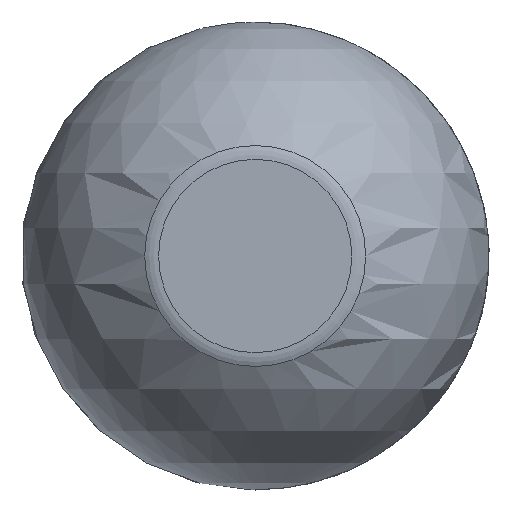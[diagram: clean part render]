
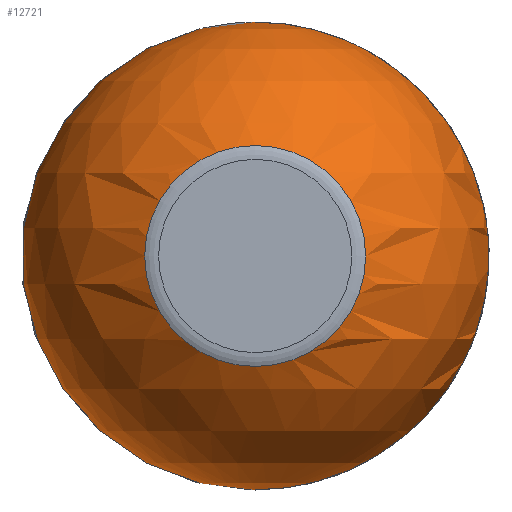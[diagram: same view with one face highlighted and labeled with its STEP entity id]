
A CAD part, left-side view. The second image highlights one B-rep face of the part: STEP entity #12721.
In plain terms, the highlighted spherical face has radius 12.179 mm.
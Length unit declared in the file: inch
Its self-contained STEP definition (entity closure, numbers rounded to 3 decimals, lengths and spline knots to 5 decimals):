
#2992=SPHERICAL_SURFACE('',#13518,0.4795);
#3435=FACE_BOUND('',#4279,.T.);
#3436=FACE_BOUND('',#4280,.T.);
#4279=EDGE_LOOP('',(#8761));
#4280=EDGE_LOOP('',(#8762));
#5109=CIRCLE('',#13510,0.26464);
#5112=CIRCLE('',#13517,0.2265);
#5449=VERTEX_POINT('',#17085);
#5452=VERTEX_POINT('',#17095);
#6775=EDGE_CURVE('',#5449,#5449,#5109,.T.);
#6778=EDGE_CURVE('',#5452,#5452,#5112,.T.);
#8761=ORIENTED_EDGE('',*,*,#6775,.T.);
#8762=ORIENTED_EDGE('',*,*,#6778,.T.);
#12721=ADVANCED_FACE('',(#3435,#3436),#2992,.T.);
#13510=AXIS2_PLACEMENT_3D('',#17086,#14385,#14386);
#13517=AXIS2_PLACEMENT_3D('',#17096,#14399,#14400);
#13518=AXIS2_PLACEMENT_3D('',#17097,#14401,#14402);
#14385=DIRECTION('center_axis',(-1.,0.,0.));
#14386=DIRECTION('ref_axis',(0.,0.,-1.));
#14399=DIRECTION('center_axis',(1.,0.,0.));
#14400=DIRECTION('ref_axis',(0.,0.,-1.));
#14401=DIRECTION('center_axis',(0.,0.,1.));
#14402=DIRECTION('ref_axis',(1.,0.,0.));
#17085=CARTESIAN_POINT('',(-0.46231,0.14868,0.));
#17086=CARTESIAN_POINT('Origin',(-0.46231,0.41332,0.));
#17095=CARTESIAN_POINT('',(-1.2848,0.63982,0.));
#17096=CARTESIAN_POINT('Origin',(-1.2848,0.41332,0.));
#17097=CARTESIAN_POINT('Origin',(-0.86217,0.41332,0.));
